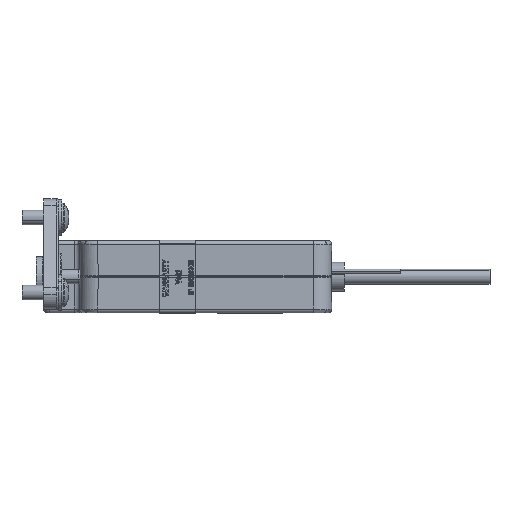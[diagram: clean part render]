
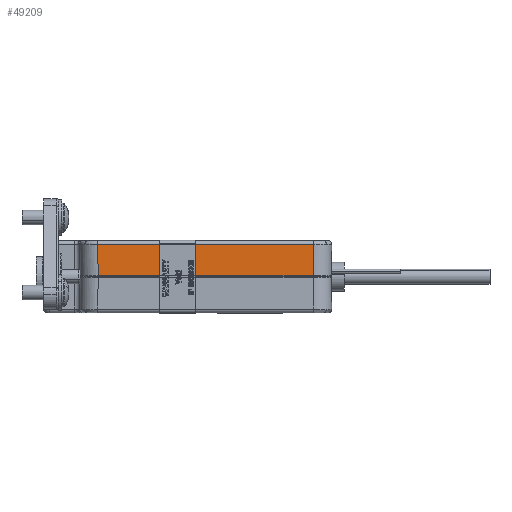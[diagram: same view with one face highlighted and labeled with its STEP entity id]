
A CAD part, front view. The second image highlights one B-rep face of the part: STEP entity #49209.
In plain terms, the highlighted planar face has unit normal (0, -1, -0.018) as drawn and (0, -1, 0.017) by its records, which use the part's own axes.
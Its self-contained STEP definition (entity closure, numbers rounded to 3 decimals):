
#1397 = VERTEX_POINT ( 'NONE', #35180 ) ;
#2479 = DIRECTION ( 'NONE',  ( -0.017, 0.017, 1. ) ) ;
#5867 = DIRECTION ( 'NONE',  ( 0., -1., 0.017 ) ) ;
#12668 = DIRECTION ( 'NONE',  ( 1., 0., 0. ) ) ;
#13870 = CARTESIAN_POINT ( 'NONE',  ( 29.992, -34.991, 0.523 ) ) ;
#14092 = EDGE_CURVE ( 'NONE', #159592, #1397, #133653, .T. ) ;
#20722 = CARTESIAN_POINT ( 'NONE',  ( 0., -35., 0. ) ) ;
#21037 = ORIENTED_EDGE ( 'NONE', *, *, #126922, .T. ) ;
#35180 = CARTESIAN_POINT ( 'NONE',  ( -29.83, -34.829, 9.803 ) ) ;
#40215 = ORIENTED_EDGE ( 'NONE', *, *, #161574, .T. ) ;
#43167 = ORIENTED_EDGE ( 'NONE', *, *, #81851, .T. ) ;
#47793 = CARTESIAN_POINT ( 'NONE',  ( -29.983, -34.982, 1.017 ) ) ;
#49209 = ADVANCED_FACE ( 'NONE', ( #89176 ), #90051, .T. ) ;
#52205 = LINE ( 'NONE', #146110, #80412 ) ;
#52541 = VECTOR ( 'NONE', #159990, 1000. ) ;
#64488 = VECTOR ( 'NONE', #134516, 1000. ) ;
#68276 = LINE ( 'NONE', #13870, #100476 ) ;
#72664 = VERTEX_POINT ( 'NONE', #115359 ) ;
#80412 = VECTOR ( 'NONE', #12668, 1000. ) ;
#81851 = EDGE_CURVE ( 'NONE', #72664, #159592, #68276, .T. ) ;
#84229 = ORIENTED_EDGE ( 'NONE', *, *, #14092, .T. ) ;
#89176 = FACE_OUTER_BOUND ( 'NONE', #114998, .T. ) ;
#90051 = PLANE ( 'NONE',  #95544 ) ;
#95544 = AXIS2_PLACEMENT_3D ( 'NONE', #20722, #5867, #127835 ) ;
#100476 = VECTOR ( 'NONE', #2479, 1000. ) ;
#111644 = CARTESIAN_POINT ( 'NONE',  ( -30.002, -35.002, -0.087 ) ) ;
#114998 = EDGE_LOOP ( 'NONE', ( #43167, #84229, #40215, #21037 ) ) ;
#115359 = CARTESIAN_POINT ( 'NONE',  ( 29.983, -34.982, 1.017 ) ) ;
#126922 = EDGE_CURVE ( 'NONE', #138222, #72664, #52205, .T. ) ;
#127835 = DIRECTION ( 'NONE',  ( 0., -0.017, -1. ) ) ;
#133653 = LINE ( 'NONE', #145133, #52541 ) ;
#134516 = DIRECTION ( 'NONE',  ( -0.017, -0.017, -1. ) ) ;
#137118 = LINE ( 'NONE', #111644, #64488 ) ;
#138222 = VERTEX_POINT ( 'NONE', #47793 ) ;
#145133 = CARTESIAN_POINT ( 'NONE',  ( -29.826, -34.829, 9.803 ) ) ;
#146110 = CARTESIAN_POINT ( 'NONE',  ( 0., -34.982, 1.017 ) ) ;
#159592 = VERTEX_POINT ( 'NONE', #167089 ) ;
#159990 = DIRECTION ( 'NONE',  ( -1., 0., 0. ) ) ;
#161574 = EDGE_CURVE ( 'NONE', #1397, #138222, #137118, .T. ) ;
#167089 = CARTESIAN_POINT ( 'NONE',  ( 29.83, -34.829, 9.803 ) ) ;
